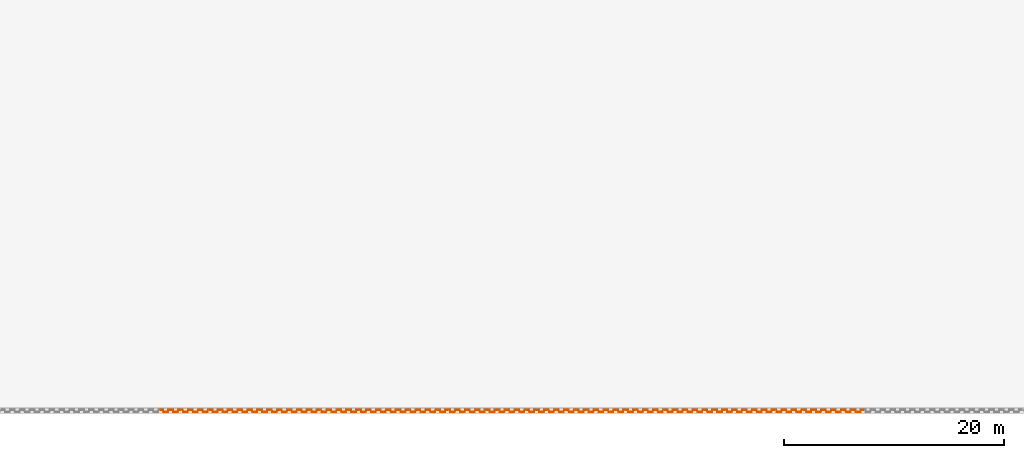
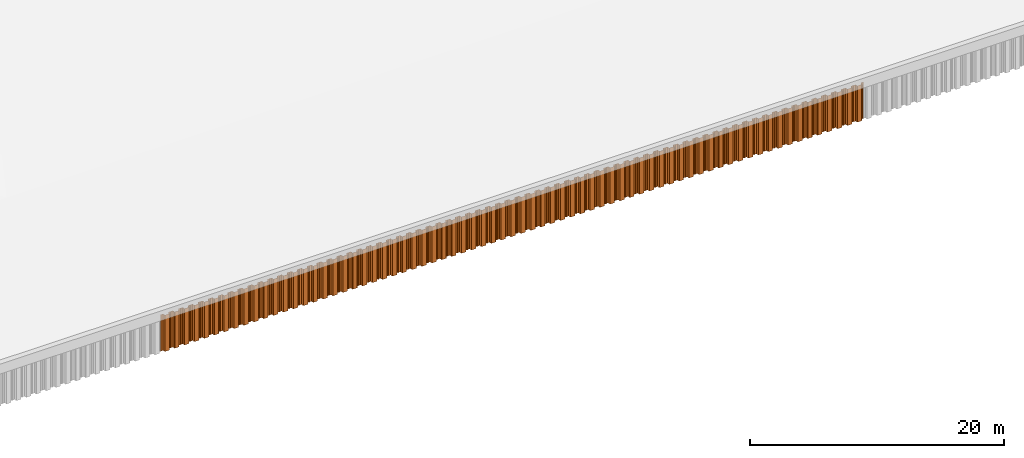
# One storey, part 11 of 32: 71 proxies.
"""IFC2X3 building model written with IfcOpenShell, lengths in millimetres."""

from ifc_helpers import new_model, entity, si_unit, converted_unit, derived_unit, direction, frame, frame_2d, origin, place, context, subcontext, project, spatial, polyline, circle_curve, parameter, trimmed, segment, composite_curve, outline, extrude, source, transform, mapped, type_object, type_shapes, element, save


model = new_model("IFC2X3")

# Units and contexts
model_context = context("Model", 3, precision=0.01, world=origin(), true_north=direction((6.12303176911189e-17, 1.0)))
body_context = subcontext(model_context, "Body", "Model", "MODEL_VIEW")
ifc_project = project(units=[si_unit("LENGTHUNIT", "METRE", prefix="MILLI"), si_unit("AREAUNIT", "SQUARE_METRE"), si_unit("VOLUMEUNIT", "CUBIC_METRE"), converted_unit("PLANEANGLEUNIT", "DEGREE", entity("IfcRatioMeasure", 0.0174532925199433), si_unit("PLANEANGLEUNIT", "RADIAN"), dimensions=[0, 0, 0, 0, 0, 0, 0]), si_unit("MASSUNIT", "GRAM", prefix="KILO"), derived_unit("MASSDENSITYUNIT", [(si_unit("MASSUNIT", "GRAM", prefix="KILO"), 1), (si_unit("LENGTHUNIT", "METRE"), -3)]), si_unit("TIMEUNIT", "SECOND"), si_unit("FREQUENCYUNIT", "HERTZ"), si_unit("THERMODYNAMICTEMPERATUREUNIT", "DEGREE_CELSIUS"), derived_unit("THERMALTRANSMITTANCEUNIT", [(si_unit("MASSUNIT", "GRAM", prefix="KILO"), 1), (si_unit("THERMODYNAMICTEMPERATUREUNIT", "KELVIN"), -1), (si_unit("TIMEUNIT", "SECOND"), -3)]), derived_unit("VOLUMETRICFLOWRATEUNIT", [(si_unit("LENGTHUNIT", "METRE"), 3), (si_unit("TIMEUNIT", "SECOND"), -1)]), si_unit("ELECTRICCURRENTUNIT", "AMPERE"), si_unit("ELECTRICVOLTAGEUNIT", "VOLT"), si_unit("POWERUNIT", "WATT"), si_unit("FORCEUNIT", "NEWTON", prefix="KILO"), si_unit("ILLUMINANCEUNIT", "LUX"), si_unit("LUMINOUSFLUXUNIT", "LUMEN"), si_unit("LUMINOUSINTENSITYUNIT", "CANDELA"), derived_unit("USERDEFINED", [(si_unit("MASSUNIT", "GRAM", prefix="KILO"), -1), (si_unit("LENGTHUNIT", "METRE"), -2), (si_unit("TIMEUNIT", "SECOND"), 3), (si_unit("LUMINOUSFLUXUNIT", "LUMEN"), 1)]), derived_unit("LINEARVELOCITYUNIT", [(si_unit("LENGTHUNIT", "METRE"), 1), (si_unit("TIMEUNIT", "SECOND"), -1)]), si_unit("PRESSUREUNIT", "PASCAL"), derived_unit("USERDEFINED", [(si_unit("LENGTHUNIT", "METRE"), -2), (si_unit("MASSUNIT", "GRAM", prefix="KILO"), 1), (si_unit("TIMEUNIT", "SECOND"), -2)])], contexts=[model_context])

# Site, building, storey
site_placement = place(None, origin())
site = spatial("IfcSite", under=ifc_project, at=site_placement, Name="Default", CompositionType="ELEMENT")
building_placement = place(site_placement, origin())
building = spatial("IfcBuilding", under=site, at=building_placement, CompositionType="ELEMENT")
storey_placement = place(building_placement, origin())
storey = spatial("IfcBuildingStorey", under=building, at=storey_placement, Name="矢板", CompositionType="ELEMENT", Elevation=0.0)

# Proxies
building_element_proxy_type = type_object("IfcBuildingElementProxyType", Name="鋼矢板10H型", PredefinedType="NOTDEFINED")
shared_shape = source(origin(), body_context, "Body", "SweptSolid", [
    extrude(outline(composite_curve([segment(trimmed(circle_curve(frame_2d((85.3662976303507, 306.644432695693), x_axis=(0.422618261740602, 0.906307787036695)), 13.885714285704), [parameter(24.9999999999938)], [parameter(90.0000000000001)], True, "PARAMETER"), True, "CONTINUOUS"), segment(polyline([(72.7815666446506, 312.512789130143), (9.8129512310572, 177.476157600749)]), True, "CONTINUOUS"), segment(trimmed(circle_curve(frame_2d((29.3891994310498, 168.347603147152), x_axis=(0.422618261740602, 0.906307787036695)), 21.6), [parameter(90.0000000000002)], [parameter(168.69006752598)], True, "PARAMETER"), True, "CONTINUOUS"), segment(polyline([(16.598697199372, 150.941769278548), (175.329723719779, 34.2998683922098)]), True, "CONTINUOUS"), segment(trimmed(circle_curve(frame_2d((168.93447260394, 25.596951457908), x_axis=(0.422618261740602, 0.906307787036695)), 10.7999999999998), [parameter(270.0)], [parameter(348.690067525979)], True, "PARAMETER"), False, "CONTINUOUS"), segment(polyline([(178.722596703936, 21.0326742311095), (18.2974003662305, -323.000269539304)]), True, "CONTINUOUS"), segment(trimmed(circle_curve(frame_2d((8.50927626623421, -318.435992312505), x_axis=(0.422618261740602, 0.906307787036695)), 10.8), [parameter(191.30993247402)], [parameter(269.999999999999)], True, "PARAMETER"), False, "CONTINUOUS"), segment(polyline([(5.95324328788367, -328.929166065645), (-185.429973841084, -282.310113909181)]), True, "CONTINUOUS"), segment(trimmed(circle_curve(frame_2d((-190.542039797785, -303.296461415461), x_axis=(0.422618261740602, 0.906307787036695)), 21.6000000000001), [parameter(11.3099324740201)], [parameter(90.0000000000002)], True, "PARAMETER"), True, "CONTINUOUS"), segment(polyline([(-210.118287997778, -294.167906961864), (-290.330886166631, -466.184378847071)]), True, "CONTINUOUS"), segment(trimmed(circle_curve(frame_2d((-270.754637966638, -475.312933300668), x_axis=(0.422618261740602, 0.906307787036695)), 21.6), [parameter(90.0000000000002)], [parameter(269.999999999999)], True, "PARAMETER"), True, "CONTINUOUS"), segment(polyline([(-251.178389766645, -484.441487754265), (-249.065298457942, -479.909948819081)]), True, "CONTINUOUS"), segment(polyline([(-249.065298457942, -479.909948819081), (-258.853422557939, -475.345671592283)]), True, "CONTINUOUS"), segment(polyline([(-258.853422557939, -475.345671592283), (-260.966513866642, -479.877210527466)]), True, "CONTINUOUS"), segment(trimmed(circle_curve(frame_2d((-270.754637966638, -475.312933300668), x_axis=(0.422618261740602, 0.906307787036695)), 10.8), [parameter(90.0000000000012)], [parameter(270.0)], True, "PARAMETER"), False, "CONTINUOUS"), segment(polyline([(-280.542762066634, -470.748656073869), (-200.330163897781, -298.732184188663)]), True, "CONTINUOUS"), segment(trimmed(circle_curve(frame_2d((-190.542039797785, -303.296461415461), x_axis=(0.422618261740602, 0.906307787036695)), 10.8), [parameter(11.3099324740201)], [parameter(89.9999999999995)], True, "PARAMETER"), False, "CONTINUOUS"), segment(polyline([(-187.986006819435, -292.803287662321), (3.39721030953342, -339.422339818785)]), True, "CONTINUOUS"), segment(trimmed(circle_curve(frame_2d((8.50927626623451, -318.435992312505), x_axis=(0.422618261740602, 0.906307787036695)), 21.6), [parameter(191.30993247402)], [parameter(270.0)], True, "PARAMETER"), True, "CONTINUOUS"), segment(polyline([(28.0855244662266, -327.564546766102), (188.510720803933, 16.4683970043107)]), True, "CONTINUOUS"), segment(trimmed(circle_curve(frame_2d((168.93447260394, 25.5969514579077), x_axis=(0.422618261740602, 0.906307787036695)), 21.6), [parameter(270.0)], [parameter(348.69006752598)], True, "PARAMETER"), True, "CONTINUOUS"), segment(polyline([(181.724974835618, 43.0027853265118), (22.9939483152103, 159.644686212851)]), True, "CONTINUOUS"), segment(trimmed(circle_curve(frame_2d((29.3891994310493, 168.347603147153), x_axis=(0.422618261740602, 0.906307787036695)), 10.7999999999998), [parameter(89.9999999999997)], [parameter(168.690067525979)], True, "PARAMETER"), False, "CONTINUOUS"), segment(polyline([(19.6010753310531, 172.911880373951), (82.5696907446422, 307.948511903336)]), True, "CONTINUOUS"), segment(trimmed(circle_curve(frame_2d((85.3662976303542, 306.64443269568), x_axis=(0.422618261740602, 0.906307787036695)), 3.08571428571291), [parameter(25.0000000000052)], [parameter(90.0000000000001)], True, "PARAMETER"), False, "CONTINUOUS"), segment(polyline([(85.3662976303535, 309.730146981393), (122.220231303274, 309.730146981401)]), True, "CONTINUOUS"), segment(trimmed(circle_curve(frame_2d((122.220231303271, 323.615861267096), x_axis=(0.422618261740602, 0.906307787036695)), 13.8857142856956), [parameter(205.000000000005)], [parameter(270.0)], True, "PARAMETER"), True, "CONTINUOUS"), segment(polyline([(134.804962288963, 317.747504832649), (141.079261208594, 331.202782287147)]), True, "CONTINUOUS"), segment(trimmed(circle_curve(frame_2d((121.503013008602, 340.331336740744), x_axis=(0.422618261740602, 0.906307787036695)), 21.6), [parameter(270.0)], [parameter(90.0000000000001)], True, "PARAMETER"), True, "CONTINUOUS"), segment(polyline([(101.926764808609, 349.459891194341), (99.8136734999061, 344.928352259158)]), True, "CONTINUOUS"), segment(polyline([(99.8136734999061, 344.928352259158), (109.601797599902, 340.364075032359)]), True, "CONTINUOUS"), segment(polyline([(109.601797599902, 340.364075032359), (111.714888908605, 344.895613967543)]), True, "CONTINUOUS"), segment(trimmed(circle_curve(frame_2d((121.503013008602, 340.331336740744), x_axis=(0.422618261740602, 0.906307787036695)), 10.8), [parameter(270.0)], [parameter(89.9999999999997)], True, "PARAMETER"), False, "CONTINUOUS"), segment(polyline([(131.291137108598, 335.767059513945), (125.01683818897, 322.311782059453)]), True, "CONTINUOUS"), segment(trimmed(circle_curve(frame_2d((122.220231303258, 323.615861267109), x_axis=(0.422618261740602, 0.906307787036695)), 3.08571428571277), [parameter(204.999999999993)], [parameter(270.0)], True, "PARAMETER"), False, "CONTINUOUS"), segment(polyline([(122.220231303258, 320.530146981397), (85.3662976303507, 320.530146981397)]), True, "CONTINUOUS")], self_intersect=False)), frame((95.205667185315, -48.8888888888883, -3500.0), z_axis=(0.0, 0.0, -1.0), x_axis=(0.4226182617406, 0.906307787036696, 0.0)), (0.0, 0.0, -1.0), 3500.0),
])
type_shapes(building_element_proxy_type, [shared_shape])
for number, where, z_axis, x_axis in (
    (1, (-20897.5000000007, -52500.0, 5850.0), (0.0, 0.0, 1.0), (-1.0, 0.0, 0.0)),
    (2, (-21797.5000000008, -52500.0, 5850.0), (0.0, 0.0, 1.0), (-1.0, 0.0, 0.0)),
    (3, (-22697.5000000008, -52500.0, 5850.0), (0.0, 0.0, 1.0), (-1.0, 0.0, 0.0)),
    (4, (-23597.5000000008, -52500.0, 5850.0), (0.0, 0.0, 1.0), (-1.0, 0.0, 0.0)),
    (5, (-24497.5000000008, -52500.0, 5850.0), (0.0, 0.0, 1.0), (-1.0, 0.0, 0.0)),
    (6, (-25397.5000000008, -52500.0, 5850.0), (0.0, 0.0, 1.0), (-1.0, 0.0, 0.0)),
    (7, (-26297.5000000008, -52500.0, 5850.0), (0.0, 0.0, 1.0), (-1.0, 0.0, 0.0)),
    (8, (-27197.5000000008, -52500.0, 5850.0), (0.0, 0.0, 1.0), (-1.0, 0.0, 0.0)),
    (9, (-28097.5000000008, -52500.0, 5850.0), (0.0, 0.0, 1.0), (-1.0, 0.0, 0.0)),
    (10, (-28997.5000000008, -52500.0, 5850.0), (0.0, 0.0, 1.0), (-1.0, 0.0, 0.0)),
    (11, (-29897.5000000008, -52500.0, 5850.0), (0.0, 0.0, 1.0), (-1.0, 0.0, 0.0)),
    (12, (-30797.5000000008, -52500.0, 5850.0), (0.0, 0.0, 1.0), (-1.0, 0.0, 0.0)),
    (13, (-31697.5000000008, -52500.0, 5850.0), (0.0, 0.0, 1.0), (-1.0, 0.0, 0.0)),
    (14, (-32597.5000000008, -52500.0, 5850.0), (0.0, 0.0, 1.0), (-1.0, 0.0, 0.0)),
    (15, (-33497.5000000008, -52500.0, 5850.0), (0.0, 0.0, 1.0), (-1.0, 0.0, 0.0)),
    (16, (-34397.5000000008, -52500.0, 5850.0), (0.0, 0.0, 1.0), (-1.0, 0.0, 0.0)),
    (17, (-35297.5000000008, -52500.0, 5850.0), (0.0, 0.0, 1.0), (-1.0, 0.0, 0.0)),
    (18, (-36197.5000000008, -52500.0, 5850.0), (0.0, 0.0, 1.0), (-1.0, 0.0, 0.0)),
    (19, (-37097.5000000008, -52500.0, 5850.0), (0.0, 0.0, 1.0), (-1.0, 0.0, 0.0)),
    (20, (-37997.5000000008, -52500.0, 5850.0), (0.0, 0.0, 1.0), (-1.0, 0.0, 0.0)),
    (21, (-38897.5000000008, -52500.0, 5850.0), (0.0, 0.0, 1.0), (-1.0, 0.0, 0.0)),
    (22, (-39797.5000000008, -52500.0, 5850.0), (0.0, 0.0, 1.0), (-1.0, 0.0, 0.0)),
    (23, (-40697.5000000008, -52500.0, 5850.0), (0.0, 0.0, 1.0), (-1.0, 0.0, 0.0)),
    (24, (-41597.5000000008, -52500.0, 5850.0), (0.0, 0.0, 1.0), (-1.0, 0.0, 0.0)),
    (25, (-42497.5000000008, -52500.0, 5850.0), (0.0, 0.0, 1.0), (-1.0, 0.0, 0.0)),
    (26, (-43397.5000000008, -52500.0, 5850.0), (0.0, 0.0, 1.0), (-1.0, 0.0, 0.0)),
    (27, (-44297.5000000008, -52500.0, 5850.0), (0.0, 0.0, 1.0), (-1.0, 0.0, 0.0)),
    (28, (-45197.5000000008, -52500.0, 5850.0), (0.0, 0.0, 1.0), (-1.0, 0.0, 0.0)),
    (29, (-46097.5000000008, -52500.0, 5850.0), (0.0, 0.0, 1.0), (-1.0, 0.0, 0.0)),
    (30, (-46997.5000000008, -52500.0, 5850.0), (0.0, 0.0, 1.0), (-1.0, 0.0, 0.0)),
    (31, (-47897.5000000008, -52500.0, 5850.0), (0.0, 0.0, 1.0), (-1.0, 0.0, 0.0)),
    (32, (-48797.5000000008, -52500.0, 5850.0), (0.0, 0.0, 1.0), (-1.0, 0.0, 0.0)),
    (33, (-49697.5000000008, -52500.0, 5850.0), (0.0, 0.0, 1.0), (-1.0, 0.0, 0.0)),
    (34, (-50597.5000000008, -52500.0, 5850.0), (0.0, 0.0, 1.0), (-1.0, 0.0, 0.0)),
    (35, (-51497.5000000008, -52500.0, 5850.0), (0.0, 0.0, 1.0), (-1.0, 0.0, 0.0)),
    (36, (-52397.5000000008, -52500.0, 5850.0), (0.0, 0.0, 1.0), (-1.0, 0.0, 0.0)),
    (37, (-53297.5000000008, -52500.0, 5850.0), (0.0, 0.0, 1.0), (-1.0, 0.0, 0.0)),
    (38, (-54197.5000000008, -52500.0, 5850.0), (0.0, 0.0, 1.0), (-1.0, 0.0, 0.0)),
    (39, (-55097.5000000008, -52500.0, 5850.0), (0.0, 0.0, 1.0), (-1.0, 0.0, 0.0)),
    (40, (-55997.5000000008, -52500.0, 5850.0), (0.0, 0.0, 1.0), (-1.0, 0.0, 0.0)),
    (41, (-56897.5000000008, -52500.0, 5850.0), (0.0, 0.0, 1.0), (-1.0, 0.0, 0.0)),
    (42, (-57797.5000000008, -52500.0, 5850.0), (0.0, 0.0, 1.0), (-1.0, 0.0, 0.0)),
    (43, (-58697.5000000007, -52500.0, 5850.0), (0.0, 0.0, 1.0), (-1.0, 0.0, 0.0)),
    (44, (-59597.5000000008, -52500.0, 5850.0), (0.0, 0.0, 1.0), (-1.0, 0.0, 0.0)),
    (45, (-60497.5000000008, -52500.0, 5850.0), (0.0, 0.0, 1.0), (-1.0, 0.0, 0.0)),
    (46, (-61397.5000000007, -52500.0, 5850.0), (0.0, 0.0, 1.0), (-1.0, 0.0, 0.0)),
    (47, (-62297.5000000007, -52500.0, 5850.0), (0.0, 0.0, 1.0), (-1.0, 0.0, 0.0)),
    (48, (-63197.5000000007, -52500.0, 5850.0), (0.0, 0.0, 1.0), (-1.0, 0.0, 0.0)),
    (49, (-64097.5000000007, -52500.0, 5850.0), (0.0, 0.0, 1.0), (-1.0, 0.0, 0.0)),
    (50, (-64997.5000000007, -52500.0, 5850.0), (0.0, 0.0, 1.0), (-1.0, 0.0, 0.0)),
    (51, (-65897.5000000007, -52500.0, 5850.0), (0.0, 0.0, 1.0), (-1.0, 0.0, 0.0)),
    (52, (-66797.5000000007, -52500.0, 5850.0), (0.0, 0.0, 1.0), (-1.0, 0.0, 0.0)),
    (53, (-67697.5000000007, -52500.0, 5850.0), (0.0, 0.0, 1.0), (-1.0, 0.0, 0.0)),
    (54, (-68597.5000000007, -52500.0, 5850.0), (0.0, 0.0, 1.0), (-1.0, 0.0, 0.0)),
    (55, (-69497.5000000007, -52500.0, 5850.0), (0.0, 0.0, 1.0), (-1.0, 0.0, 0.0)),
    (56, (-70397.5000000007, -52500.0, 5850.0), (0.0, 0.0, 1.0), (-1.0, 0.0, 0.0)),
    (57, (-71297.5000000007, -52500.0, 5850.0), (0.0, 0.0, 1.0), (-1.0, 0.0, 0.0)),
    (58, (-72197.5000000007, -52500.0, 5850.0), (0.0, 0.0, 1.0), (-1.0, 0.0, 0.0)),
    (59, (-73097.5000000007, -52500.0, 5850.0), (0.0, 0.0, 1.0), (-1.0, 0.0, 0.0)),
    (60, (-73997.5000000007, -52500.0, 5850.0), (0.0, 0.0, 1.0), (-1.0, 0.0, 0.0)),
    (61, (-74897.5000000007, -52500.0, 5850.0), (0.0, 0.0, 1.0), (-1.0, 0.0, 0.0)),
    (62, (-75797.5000000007, -52500.0, 5850.0), (0.0, 0.0, 1.0), (-1.0, 0.0, 0.0)),
    (63, (-76697.5000000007, -52500.0, 5850.0), (0.0, 0.0, 1.0), (-1.0, 0.0, 0.0)),
    (64, (-77597.5000000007, -52500.0, 5850.0), (0.0, 0.0, 1.0), (-1.0, 0.0, 0.0)),
    (65, (-78497.5000000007, -52500.0, 5850.0), (0.0, 0.0, 1.0), (-1.0, 0.0, 0.0)),
    (66, (-79397.5000000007, -52500.0, 5850.0), (0.0, 0.0, 1.0), (-1.0, 0.0, 0.0)),
    (67, (-80297.5000000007, -52500.0, 5850.0), (0.0, 0.0, 1.0), (-1.0, 0.0, 0.0)),
    (68, (-81197.5000000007, -52500.0, 5850.0), (0.0, 0.0, 1.0), (-1.0, 0.0, 0.0)),
    (69, (-82097.5000000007, -52500.0, 5850.0), (0.0, 0.0, 1.0), (-1.0, 0.0, 0.0)),
    (70, (-82997.5000000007, -52500.0, 5850.0), (0.0, 0.0, 1.0), (-1.0, 0.0, 0.0)),
    (71, (-83897.5000000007, -52500.0, 5850.0), (0.0, 0.0, 1.0), (-1.0, 0.0, 0.0)),
):
    element("IfcBuildingElementProxy", number, at=place(storey_placement, frame(where, z_axis=z_axis, x_axis=x_axis)), inside=storey, type_object=building_element_proxy_type, Name="鋼矢板10H型:鋼矢板10H型", ObjectType="鋼矢板10H型:鋼矢板10H型", context=body_context, shape_type="MappedRepresentation", body=[
        mapped(shared_shape, transform((0.0, 0.0, 0.0), scale=1.0)),
    ])

save(model, "model.ifc")
